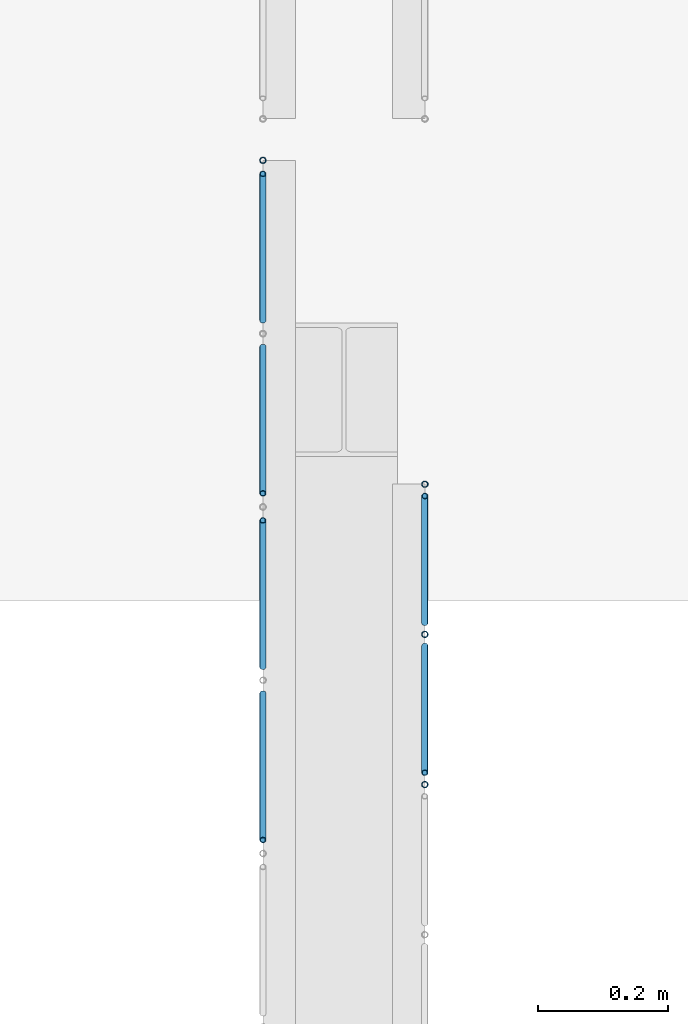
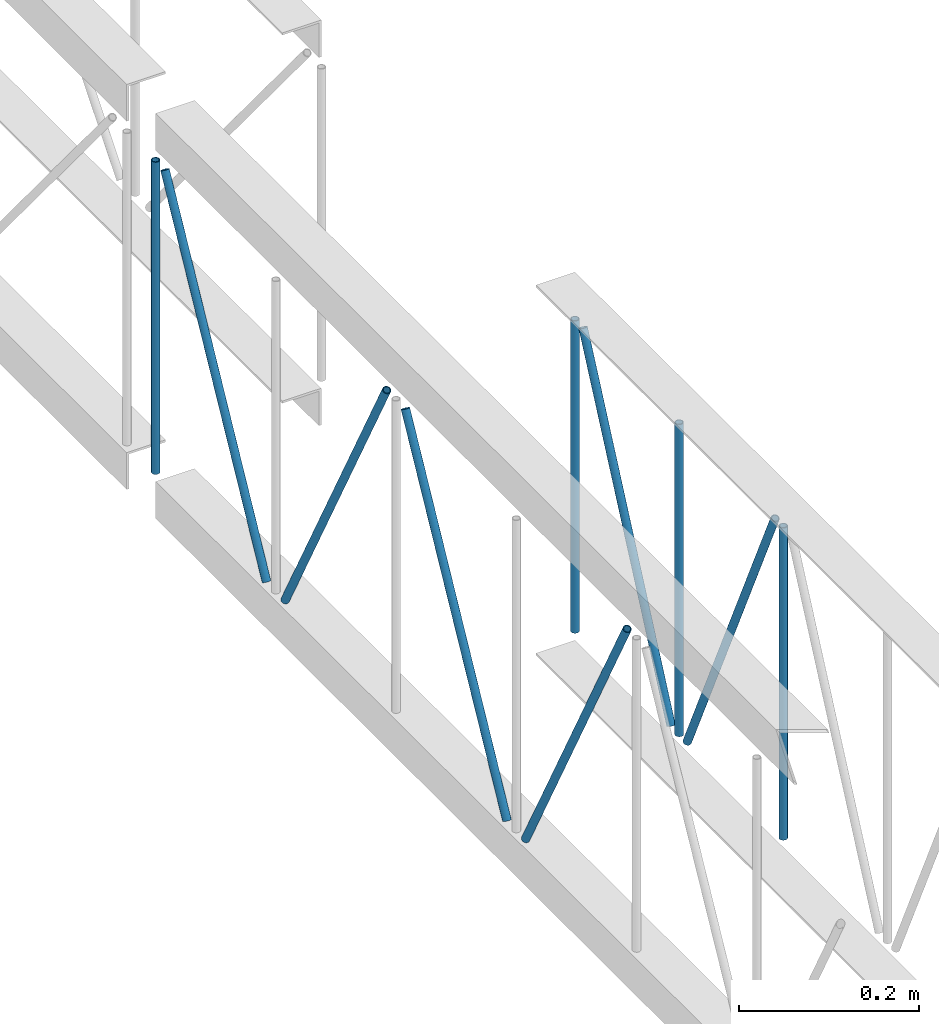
# One storey, part 17 of 153: 10 members, 2 elements without a shape of their own.
"""IFC4 building model written with IfcOpenShell, lengths in metres."""

from ifc_helpers import new_model, entity, si_unit, converted_unit, derived_unit, direction, frame, origin, place, context, subcontext, project, spatial, arc, indexed_curve, outline, extrude, source, transform, mapped, material, type_object, type_shapes, element, aggregate, save


model = new_model("IFC4")

# Units and contexts
model_context = context("Model", 3, precision=1e-05, world=origin(), true_north=direction((6.123031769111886e-17, 1.0)))
body_context = subcontext(model_context, "Body", "Model", "MODEL_VIEW")
ifc_project = project(units=[si_unit("LENGTHUNIT", "METRE"), si_unit("AREAUNIT", "SQUARE_METRE"), si_unit("VOLUMEUNIT", "CUBIC_METRE"), converted_unit("PLANEANGLEUNIT", "DEGREE", entity("IfcRatioMeasure", 0.017453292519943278), si_unit("PLANEANGLEUNIT", "RADIAN"), dimensions=[0, 0, 0, 0, 0, 0, 0]), si_unit("MASSUNIT", "GRAM", prefix="KILO"), derived_unit("MASSDENSITYUNIT", [(si_unit("MASSUNIT", "GRAM", prefix="KILO"), 1), (si_unit("LENGTHUNIT", "METRE"), -3)]), derived_unit("MOMENTOFINERTIAUNIT", [(si_unit("LENGTHUNIT", "METRE"), 4)]), si_unit("TIMEUNIT", "SECOND"), si_unit("FREQUENCYUNIT", "HERTZ"), si_unit("THERMODYNAMICTEMPERATUREUNIT", "DEGREE_CELSIUS"), derived_unit("THERMALTRANSMITTANCEUNIT", [(si_unit("MASSUNIT", "GRAM", prefix="KILO"), 1), (si_unit("THERMODYNAMICTEMPERATUREUNIT", "KELVIN"), -1), (si_unit("TIMEUNIT", "SECOND"), -3)]), derived_unit("VOLUMETRICFLOWRATEUNIT", [(si_unit("LENGTHUNIT", "METRE"), 3), (si_unit("TIMEUNIT", "SECOND"), -1)]), derived_unit("MASSFLOWRATEUNIT", [(si_unit("MASSUNIT", "GRAM", prefix="KILO"), 1), (si_unit("TIMEUNIT", "SECOND"), -1)]), derived_unit("ROTATIONALFREQUENCYUNIT", [(si_unit("TIMEUNIT", "SECOND"), -1)]), si_unit("ELECTRICCURRENTUNIT", "AMPERE"), si_unit("ELECTRICVOLTAGEUNIT", "VOLT"), si_unit("POWERUNIT", "WATT"), si_unit("FORCEUNIT", "NEWTON", prefix="KILO"), si_unit("ILLUMINANCEUNIT", "LUX"), si_unit("LUMINOUSFLUXUNIT", "LUMEN"), si_unit("LUMINOUSINTENSITYUNIT", "CANDELA"), derived_unit("USERDEFINED", [(si_unit("MASSUNIT", "GRAM", prefix="KILO"), -1), (si_unit("LENGTHUNIT", "METRE"), -2), (si_unit("TIMEUNIT", "SECOND"), 3), (si_unit("LUMINOUSFLUXUNIT", "LUMEN"), 1)]), derived_unit("SOUNDPOWERUNIT", [(si_unit("MASSUNIT", "GRAM", prefix="KILO"), 1), (si_unit("LENGTHUNIT", "METRE"), 2), (si_unit("TIMEUNIT", "SECOND"), -3)]), derived_unit("SOUNDPRESSUREUNIT", [(si_unit("MASSUNIT", "GRAM", prefix="KILO"), 1), (si_unit("LENGTHUNIT", "METRE"), -1), (si_unit("TIMEUNIT", "SECOND"), -2)]), derived_unit("LINEARVELOCITYUNIT", [(si_unit("LENGTHUNIT", "METRE"), 1), (si_unit("TIMEUNIT", "SECOND"), -1)]), si_unit("PRESSUREUNIT", "PASCAL"), derived_unit("USERDEFINED", [(si_unit("LENGTHUNIT", "METRE"), -2), (si_unit("MASSUNIT", "GRAM", prefix="KILO"), 1), (si_unit("TIMEUNIT", "SECOND"), -2)]), derived_unit("LINEARFORCEUNIT", [(si_unit("MASSUNIT", "GRAM", prefix="KILO"), 1), (si_unit("LENGTHUNIT", "METRE"), 1), (si_unit("TIMEUNIT", "SECOND"), -2), (si_unit("LENGTHUNIT", "METRE"), -1)]), derived_unit("PLANARFORCEUNIT", [(si_unit("MASSUNIT", "GRAM", prefix="KILO"), 1), (si_unit("LENGTHUNIT", "METRE"), 1), (si_unit("TIMEUNIT", "SECOND"), -2), (si_unit("LENGTHUNIT", "METRE"), -2)])], contexts=[model_context])

# Site, building, storey
site_placement = place(None, origin())
site = spatial("IfcSite", under=ifc_project, at=site_placement, Name="Superficie", CompositionType="ELEMENT")
building_placement = place(site_placement, origin())
building = spatial("IfcBuilding", under=site, at=building_placement, CompositionType="ELEMENT")
storey_placement = place(building_placement, frame((0.0, 0.0, 3.5999999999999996)))
storey = spatial("IfcBuildingStorey", under=building, at=storey_placement, Name="Nivel 1", CompositionType="ELEMENT", Elevation=3.5999999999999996)

# Assembly, member
assembly_1_placement = place(storey_placement, origin())
assembly_1 = element("IfcElementAssembly", 1, at=assembly_1_placement, inside=storey, Name="Viga de celosia 13:Viga de celosia 13", ObjectType="Viga de celosia 13:Viga de celosia 13", AssemblyPlace="NOTDEFINED", PredefinedType="TRUSS")
ifc_material = material(Name="Metal - Calibre delgado", Category="Metal")
member_type_1 = type_object("IfcMemberType", Name="HSS-Tubo estructural redondo:HSS 0.01", PredefinedType="BRACE", material=ifc_material)
shared_shape_1 = source(origin(), body_context, "Body", "SweptSolid", [
    extrude(outline(indexed_curve([(-0.005000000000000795, 7.502054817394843e-18), (-9.800269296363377e-18, -0.005000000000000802), (0.005000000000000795, -7.502054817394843e-18), (8.07772287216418e-18, 0.005000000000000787)], segments=[arc(1, 2, 3), arc(3, 4, 1)], self_intersect=False), holes=[indexed_curve([(0.003999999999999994, 7.222511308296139e-17), (6.910645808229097e-17, -0.004000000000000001), (-0.003999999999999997, -1.8650054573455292e-17), (-2.9156497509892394e-17, 0.003999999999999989)], segments=[arc(1, 2, 3), arc(3, 4, 1)], self_intersect=False)]), frame((-0.21200000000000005, 0.0, 0.0), z_axis=(1.0, 0.0, 0.0), x_axis=(0.0, 1.0, 0.0)), (0.0, 0.0, 1.0), 0.4240000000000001),
])
type_shapes(member_type_1, [shared_shape_1])
member_1_placement = place(assembly_1_placement, frame((-18.703200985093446, -9.19850251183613, 0.25), z_axis=(0.0, 1.0, 0.0), x_axis=(0.0, 0.0, 1.0)))
member_1 = element("IfcMember", 2, at=member_1_placement, type_object=member_type_1, material=ifc_material, Name="HSS-Tubo estructural redondo:HSS 0.01", ObjectType="HSS-Tubo estructural redondo:HSS 0.01", PredefinedType="BRACE", context=body_context, shape_type="MappedRepresentation", body=[
    mapped(shared_shape_1, transform((0.0, 0.0, 0.0), scale=1.0)),
])

# Assembly, members
assembly_2_placement = place(storey_placement, origin())
assembly_2 = element("IfcElementAssembly", 3, at=assembly_2_placement, inside=storey, Name="Viga de celosia 13:Viga de celosia 13", ObjectType="Viga de celosia 13:Viga de celosia 13", AssemblyPlace="NOTDEFINED", PredefinedType="TRUSS")
member_type_2 = type_object("IfcMemberType", Name="HSS-Tubo estructural redondo:HSS 0.01", PredefinedType="BRACE", material=ifc_material)
shared_shape_2 = source(origin(), body_context, "Body", "SweptSolid", [
    extrude(outline(indexed_curve([(-0.005000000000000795, 2.0824731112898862e-17), (-2.3122945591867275e-17, -0.005000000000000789), (0.005000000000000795, -2.08247311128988e-17), (2.14003991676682e-17, 0.005000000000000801)], segments=[arc(1, 2, 3), arc(3, 4, 1)], self_intersect=False), holes=[indexed_curve([(0.003999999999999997, -1.3094283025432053e-17), (-1.531427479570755e-18, -0.003999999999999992), (-0.004, 4.0098531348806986e-17), (4.1481388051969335e-17, 0.0039999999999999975)], segments=[arc(1, 2, 3), arc(3, 4, 1)], self_intersect=False)]), frame((-0.21200000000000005, 0.0, 0.0), z_axis=(1.0, 0.0, 0.0), x_axis=(0.0, -1.0, 0.0)), (0.0, 0.0, 1.0), 0.4240000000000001),
])
type_shapes(member_type_2, [shared_shape_2])
member_2_placement = place(assembly_2_placement, frame((-18.453200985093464, -10.162073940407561, 0.25), z_axis=(0.0, 1.0, 0.0), x_axis=(0.0, 0.0, 1.0)))
member_2 = element("IfcMember", 4, at=member_2_placement, type_object=member_type_2, material=ifc_material, Name="HSS-Tubo estructural redondo:HSS 0.01", ObjectType="HSS-Tubo estructural redondo:HSS 0.01", PredefinedType="BRACE", context=body_context, shape_type="MappedRepresentation", body=[
    mapped(shared_shape_2, transform((0.0, 0.0, 0.0), scale=1.0)),
])
member_3_placement = place(assembly_2_placement, frame((-18.453200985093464, -9.930288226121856, 0.25), z_axis=(0.0, 1.0, 0.0), x_axis=(0.0, 0.0, 1.0)))
member_3 = element("IfcMember", 5, at=member_3_placement, type_object=member_type_2, material=ifc_material, Name="HSS-Tubo estructural redondo:HSS 0.01", ObjectType="HSS-Tubo estructural redondo:HSS 0.01", PredefinedType="BRACE", context=body_context, shape_type="MappedRepresentation", body=[
    mapped(shared_shape_2, transform((0.0, 0.0, 0.0), scale=1.0)),
])
member_4_placement = place(assembly_2_placement, frame((-18.453200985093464, -9.698502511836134, 0.25), z_axis=(0.0, 1.0, 0.0), x_axis=(0.0, 0.0, 1.0)))
member_4 = element("IfcMember", 6, at=member_4_placement, type_object=member_type_2, material=ifc_material, Name="HSS-Tubo estructural redondo:HSS 0.01", ObjectType="HSS-Tubo estructural redondo:HSS 0.01", PredefinedType="BRACE", context=body_context, shape_type="MappedRepresentation", body=[
    mapped(shared_shape_2, transform((0.0, 0.0, 0.0), scale=1.0)),
])

# Member
member_type_3 = type_object("IfcMemberType", Name="HSS-Tubo estructural redondo:HSS 0.01", PredefinedType="BRACE", material=ifc_material)
shared_shape_3 = source(origin(), body_context, "Body", "SweptSolid", [
    extrude(outline(indexed_curve([(-0.005000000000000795, 7.502054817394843e-18), (-9.800269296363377e-18, -0.005000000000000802), (0.005000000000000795, -7.502054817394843e-18), (8.07772287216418e-18, 0.005000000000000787)], segments=[arc(1, 2, 3), arc(3, 4, 1)], self_intersect=False), holes=[indexed_curve([(0.003999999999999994, 7.222511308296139e-17), (6.910645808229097e-17, -0.004000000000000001), (-0.003999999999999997, -1.8650054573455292e-17), (-2.9156497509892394e-17, 0.003999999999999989)], segments=[arc(1, 2, 3), arc(3, 4, 1)], self_intersect=False)]), frame((-0.23950000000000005, 0.0, 0.0), z_axis=(1.0, 0.0, 0.0), x_axis=(0.0, 1.0, 0.0)), (0.0, 0.0, 1.0), 0.4790000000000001),
])
type_shapes(member_type_3, [shared_shape_3])
member_5_placement = place(assembly_1_placement, frame((-18.703200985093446, -10.134752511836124, 0.2500000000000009), z_axis=(0.0, -0.8817419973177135, -0.4717319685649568), x_axis=(0.0, 0.4717319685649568, -0.8817419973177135)))
member_5 = element("IfcMember", 7, at=member_5_placement, type_object=member_type_3, material=ifc_material, Name="HSS-Tubo estructural redondo:HSS 0.01", ObjectType="HSS-Tubo estructural redondo:HSS 0.01", PredefinedType="BRACE", context=body_context, shape_type="MappedRepresentation", body=[
    mapped(shared_shape_3, transform((0.0, 0.0, 0.0), scale=1.0)),
])

member_6_placement = place(assembly_1_placement, frame((-18.703200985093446, -9.867252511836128, 0.2499999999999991), z_axis=(0.0, 0.881741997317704, -0.47173196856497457), x_axis=(0.0, 0.47173196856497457, 0.881741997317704)))
member_6 = element("IfcMember", 8, at=member_6_placement, type_object=member_type_3, material=ifc_material, Name="HSS-Tubo estructural redondo:HSS 0.01", ObjectType="HSS-Tubo estructural redondo:HSS 0.01", PredefinedType="BRACE", context=body_context, shape_type="MappedRepresentation", body=[
    mapped(shared_shape_3, transform((0.0, 0.0, 0.0), scale=1.0)),
])

member_7_placement = place(assembly_1_placement, frame((-18.703200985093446, -9.599752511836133, 0.25), z_axis=(0.0, -0.881741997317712, -0.47173196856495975), x_axis=(0.0, 0.47173196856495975, -0.881741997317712)))
member_7 = element("IfcMember", 9, at=member_7_placement, type_object=member_type_3, material=ifc_material, Name="HSS-Tubo estructural redondo:HSS 0.01", ObjectType="HSS-Tubo estructural redondo:HSS 0.01", PredefinedType="BRACE", context=body_context, shape_type="MappedRepresentation", body=[
    mapped(shared_shape_3, transform((0.0, 0.0, 0.0), scale=1.0)),
])

member_8_placement = place(assembly_1_placement, frame((-18.703200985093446, -9.332252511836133, 0.2499999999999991), z_axis=(0.0, 0.8817419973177, -0.471731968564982), x_axis=(0.0, 0.471731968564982, 0.8817419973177)))
member_8 = element("IfcMember", 10, at=member_8_placement, type_object=member_type_3, material=ifc_material, Name="HSS-Tubo estructural redondo:HSS 0.01", ObjectType="HSS-Tubo estructural redondo:HSS 0.01", PredefinedType="BRACE", context=body_context, shape_type="MappedRepresentation", body=[
    mapped(shared_shape_3, transform((0.0, 0.0, 0.0), scale=1.0)),
])

aggregate(assembly_1, [member_1, member_5, member_6, member_7, member_8])

member_type_4 = type_object("IfcMemberType", Name="HSS-Tubo estructural redondo:HSS 0.01", PredefinedType="BRACE", material=ifc_material)
shared_shape_4 = source(origin(), body_context, "Body", "SweptSolid", [
    extrude(outline(indexed_curve([(-0.005000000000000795, 2.0824731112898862e-17), (-2.3122945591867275e-17, -0.005000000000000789), (0.005000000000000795, -2.08247311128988e-17), (2.14003991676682e-17, 0.005000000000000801)], segments=[arc(1, 2, 3), arc(3, 4, 1)], self_intersect=False), holes=[indexed_curve([(0.003999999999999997, -1.3094283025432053e-17), (-1.531427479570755e-18, -0.003999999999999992), (-0.004, 4.0098531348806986e-17), (4.1481388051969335e-17, 0.0039999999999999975)], segments=[arc(1, 2, 3), arc(3, 4, 1)], self_intersect=False)]), frame((-0.2325, 0.0, 0.0), z_axis=(1.0, 0.0, 0.0), x_axis=(0.0, -1.0, 0.0)), (0.0, 0.0, 1.0), 0.465),
])
type_shapes(member_type_4, [shared_shape_4])
member_9_placement = place(assembly_2_placement, frame((-18.453200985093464, -10.04618108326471, 0.25), z_axis=(0.0, -0.9072563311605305, -0.42057811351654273), x_axis=(0.0, 0.42057811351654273, -0.9072563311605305)))
member_9 = element("IfcMember", 11, at=member_9_placement, type_object=member_type_4, material=ifc_material, Name="HSS-Tubo estructural redondo:HSS 0.01", ObjectType="HSS-Tubo estructural redondo:HSS 0.01", PredefinedType="BRACE", context=body_context, shape_type="MappedRepresentation", body=[
    mapped(shared_shape_4, transform((0.0, 0.0, 0.0), scale=1.0)),
])

member_10_placement = place(assembly_2_placement, frame((-18.453200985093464, -9.814395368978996, 0.25000000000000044), z_axis=(0.0, 0.9072563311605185, -0.4205781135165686), x_axis=(0.0, 0.4205781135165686, 0.9072563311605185)))
member_10 = element("IfcMember", 12, at=member_10_placement, type_object=member_type_4, material=ifc_material, Name="HSS-Tubo estructural redondo:HSS 0.01", ObjectType="HSS-Tubo estructural redondo:HSS 0.01", PredefinedType="BRACE", context=body_context, shape_type="MappedRepresentation", body=[
    mapped(shared_shape_4, transform((0.0, 0.0, 0.0), scale=1.0)),
])

aggregate(assembly_2, [member_2, member_3, member_4, member_9, member_10])

save(model, "model.ifc")
